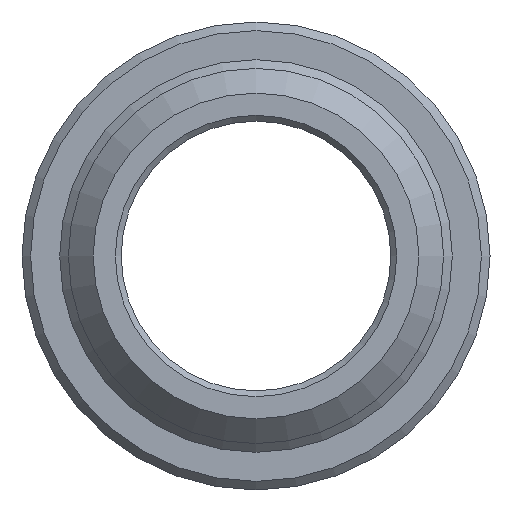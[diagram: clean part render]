
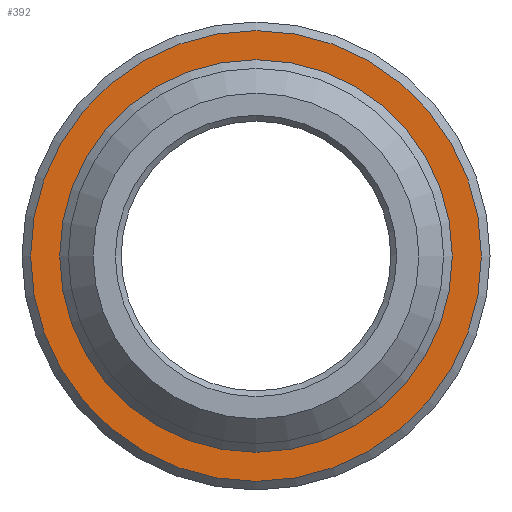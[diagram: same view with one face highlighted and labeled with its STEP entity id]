
A CAD part, front view. The second image highlights one B-rep face of the part: STEP entity #392.
In plain terms, the highlighted planar face has unit normal (0, -1, 0).
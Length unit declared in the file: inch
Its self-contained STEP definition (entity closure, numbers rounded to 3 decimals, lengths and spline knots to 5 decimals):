
#33=FACE_BOUND('',#86,.T.);
#44=PLANE('',#443);
#60=FACE_OUTER_BOUND('',#85,.T.);
#85=EDGE_LOOP('',(#316));
#86=EDGE_LOOP('',(#317));
#158=CIRCLE('',#442,0.34053);
#159=CIRCLE('',#444,0.391);
#195=VERTEX_POINT('',#678);
#196=VERTEX_POINT('',#682);
#243=EDGE_CURVE('',#195,#195,#158,.T.);
#244=EDGE_CURVE('',#196,#196,#159,.T.);
#316=ORIENTED_EDGE('',*,*,#244,.F.);
#317=ORIENTED_EDGE('',*,*,#243,.F.);
#392=ADVANCED_FACE('',(#60,#33),#44,.T.);
#442=AXIS2_PLACEMENT_3D('',#680,#536,#537);
#443=AXIS2_PLACEMENT_3D('',#681,#538,#539);
#444=AXIS2_PLACEMENT_3D('',#683,#540,#541);
#536=DIRECTION('center_axis',(0.,-1.,0.));
#537=DIRECTION('ref_axis',(0.,0.,-1.));
#538=DIRECTION('center_axis',(0.,-1.,0.));
#539=DIRECTION('ref_axis',(0.,0.,-1.));
#540=DIRECTION('center_axis',(0.,1.,0.));
#541=DIRECTION('ref_axis',(0.,0.,1.));
#678=CARTESIAN_POINT('',(0.,10.25,0.34053));
#680=CARTESIAN_POINT('Origin',(0.,10.25,0.));
#681=CARTESIAN_POINT('Origin',(0.,10.25,-0.3375));
#682=CARTESIAN_POINT('',(0.,10.25,-0.391));
#683=CARTESIAN_POINT('Origin',(0.,10.25,0.));
